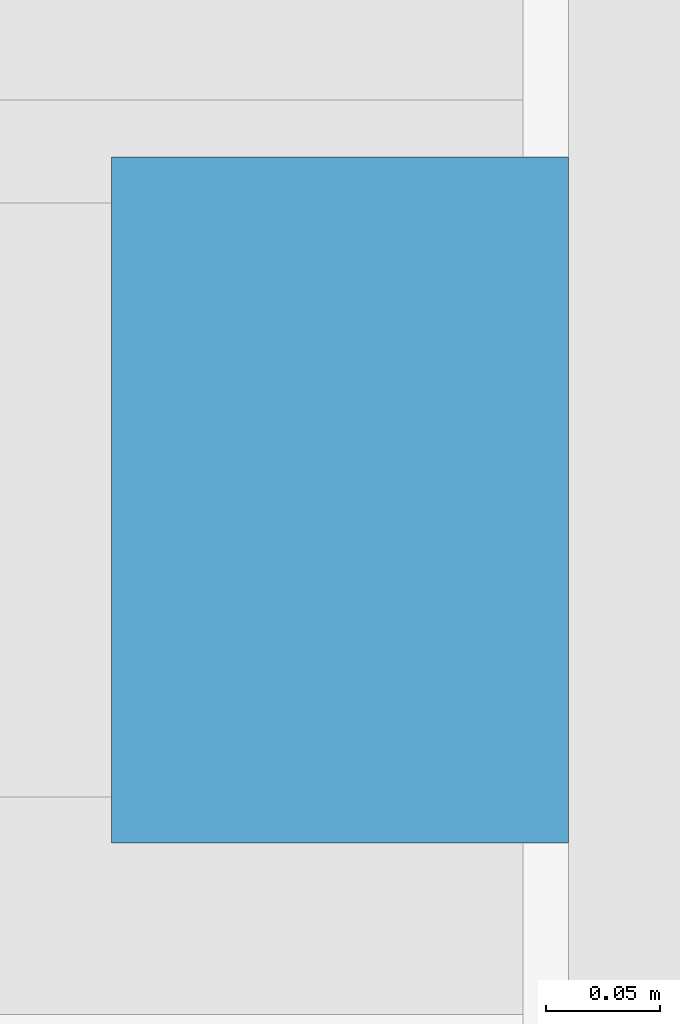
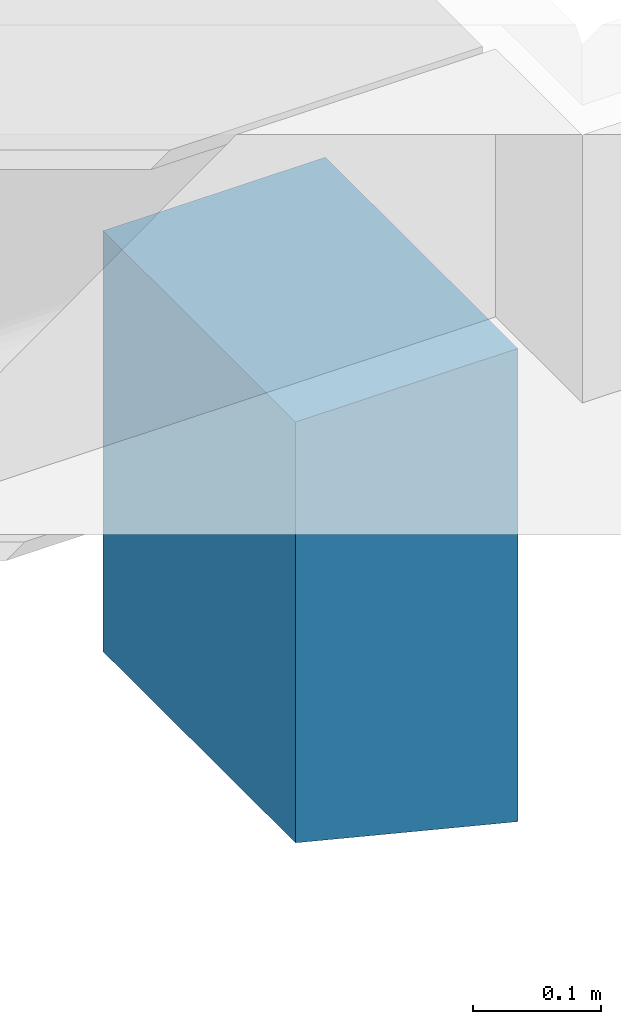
# One storey, part 30 of 31: 1 wall.
"""IFC2X3 building model written with IfcOpenShell, lengths in millimetres."""

from ifc_helpers import new_model, entity, si_unit, converted_unit, derived_unit, direction, frame, origin, place, context, subcontext, project, spatial, faceted_brep, material, type_object, element, save


model = new_model("IFC2X3")

# Units and contexts
model_context = context("Model", 3, precision=0.01, world=origin(), true_north=direction((6.12303176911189e-17, 1.0)))
body_context = subcontext(model_context, "Body", "Model", "MODEL_VIEW")
ifc_project = project(units=[si_unit("LENGTHUNIT", "METRE", prefix="MILLI"), si_unit("AREAUNIT", "SQUARE_METRE"), si_unit("VOLUMEUNIT", "CUBIC_METRE"), converted_unit("PLANEANGLEUNIT", "DEGREE", entity("IfcRatioMeasure", 0.0174532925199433), si_unit("PLANEANGLEUNIT", "RADIAN"), dimensions=[0, 0, 0, 0, 0, 0, 0]), si_unit("MASSUNIT", "GRAM", prefix="KILO"), derived_unit("MASSDENSITYUNIT", [(si_unit("MASSUNIT", "GRAM", prefix="KILO"), 1), (si_unit("LENGTHUNIT", "METRE"), -3)]), si_unit("TIMEUNIT", "SECOND"), si_unit("FREQUENCYUNIT", "HERTZ"), si_unit("THERMODYNAMICTEMPERATUREUNIT", "DEGREE_CELSIUS"), derived_unit("THERMALTRANSMITTANCEUNIT", [(si_unit("MASSUNIT", "GRAM", prefix="KILO"), 1), (si_unit("THERMODYNAMICTEMPERATUREUNIT", "KELVIN"), -1), (si_unit("TIMEUNIT", "SECOND"), -3)]), derived_unit("VOLUMETRICFLOWRATEUNIT", [(si_unit("LENGTHUNIT", "METRE"), 3), (si_unit("TIMEUNIT", "SECOND"), -1)]), si_unit("ELECTRICCURRENTUNIT", "AMPERE"), si_unit("ELECTRICVOLTAGEUNIT", "VOLT"), si_unit("POWERUNIT", "WATT"), si_unit("FORCEUNIT", "NEWTON", prefix="KILO"), si_unit("ILLUMINANCEUNIT", "LUX"), si_unit("LUMINOUSFLUXUNIT", "LUMEN"), si_unit("LUMINOUSINTENSITYUNIT", "CANDELA"), derived_unit("USERDEFINED", [(si_unit("MASSUNIT", "GRAM", prefix="KILO"), -1), (si_unit("LENGTHUNIT", "METRE"), -2), (si_unit("TIMEUNIT", "SECOND"), 3), (si_unit("LUMINOUSFLUXUNIT", "LUMEN"), 1)]), derived_unit("LINEARVELOCITYUNIT", [(si_unit("LENGTHUNIT", "METRE"), 1), (si_unit("TIMEUNIT", "SECOND"), -1)]), si_unit("PRESSUREUNIT", "PASCAL"), derived_unit("USERDEFINED", [(si_unit("LENGTHUNIT", "METRE"), -2), (si_unit("MASSUNIT", "GRAM", prefix="KILO"), 1), (si_unit("TIMEUNIT", "SECOND"), -2)])], contexts=[model_context])

# Site, building, storey
site_placement = place(None, origin())
site = spatial("IfcSite", under=ifc_project, at=site_placement, Name="Default", CompositionType="ELEMENT")
building_placement = place(site_placement, origin())
building = spatial("IfcBuilding", under=site, at=building_placement, Name="niet gebruiken", CompositionType="ELEMENT")
storey_placement = place(building_placement, frame((0.0, 0.0, 12000.0)))
storey = spatial("IfcBuildingStorey", under=building, at=storey_placement, Name="03 derde verdieping", CompositionType="ELEMENT", Elevation=12000.0)

# Wall
ifc_material = material(Name="NLRS_f2_beton prefab")
wall_type = type_object("IfcWallType", Name="NLRS_21.21_SF_WPB_oplegnok prefabbeton_gen:450x200 met afschuining 15gr", PredefinedType="NOTDEFINED", material=ifc_material)
wall_placement = place(storey_placement, frame((159990.0, 43350.0, 598.0), z_axis=(0.0, 0.0, 1.0), x_axis=(0.0, 1.0, 0.0)))
element("IfcWall", 1, at=wall_placement, inside=storey, type_object=wall_type, material=ifc_material, Name="NLRS_21.21_SF_WPB_oplegnok prefabbeton_gen:450x200 met afschuining 15gr", ObjectType="NLRS_21.21_SF_WPB_oplegnok prefabbeton_gen:450x200 met afschuining 15gr", context=body_context, shape_type="Brep", body=[
    faceted_brep([(0.0, -200.0, 450.0), (0.0, 0.0, 450.0), (0.0, 0.0, 49.8656005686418), (0.0, -200.0, 0.0), (300.0, -200.0, 450.0), (300.0, -200.0, 0.0), (300.0, 0.0, 49.8656005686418), (300.0, 0.0, 450.0)], [[[0, 1, 2, 3]], [[4, 5, 6, 7]], [[3, 5, 4, 0]], [[1, 7, 6, 2]], [[0, 4, 7, 1]], [[2, 6, 5, 3]]]),
])

save(model, "model.ifc")
